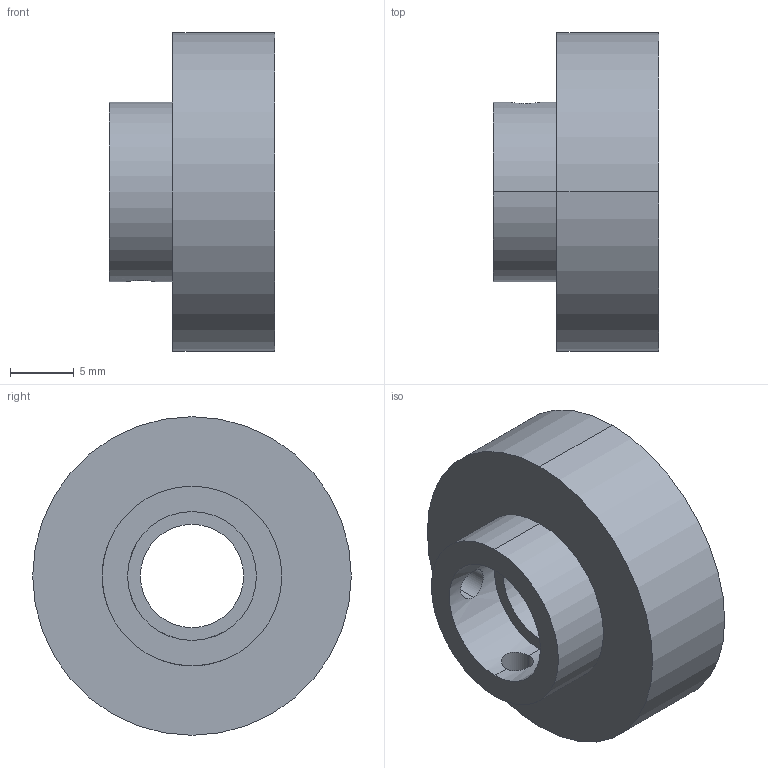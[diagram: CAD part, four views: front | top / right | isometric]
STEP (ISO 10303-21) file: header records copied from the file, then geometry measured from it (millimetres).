
FILE_DESCRIPTION (( 'STEP AP214' ), '1' );
FILE_NAME ('波片系统_滤光片安装架_V1.STEP', '2026-06-22T00:40:41', ( '' ), ( '' ), 'SwSTEP 2.0', 'SolidWorks 2022', '' );
FILE_SCHEMA (( 'AUTOMOTIVE_DESIGN' ));
Length unit declared in the file: millimetre
Products named in the file (1): 波片系统_滤光片安装架_V1
Bounding box: 13 x 25 x 25 mm (x, y, z)
Volume: 2106.2 mm3; surface area: 2345.9 mm2
Topology: 1 solids, 1 shells, 19 faces, 44 edges, 28 vertices
Faces by surface type: cylinder 14, plane 5
Entity records: 734 total; most frequent: CARTESIAN_POINT 250, DIRECTION 96, ORIENTED_EDGE 88, EDGE_CURVE 44, AXIS2_PLACEMENT_3D 40, VERTEX_POINT 28, EDGE_LOOP 26, CIRCLE 20
